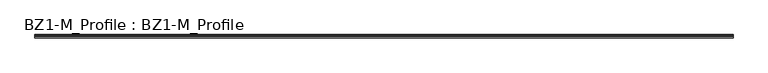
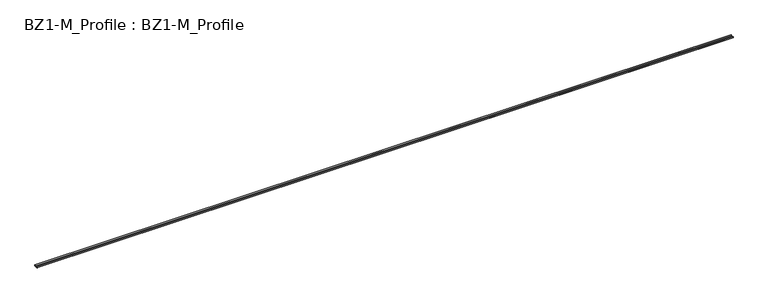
"""IFC4 building model written with IfcOpenShell, lengths in millimetres: beam geometry, BZ1-M_Profile : BZ1-M_Profile."""

from ifc_helpers import new_model, si_unit, frame, origin, place, context, project, spatial, polyline, outline, extrude, source, transform, mapped, element, save


def bz1_m_profile_bz1_m_profile_64fc4bbf(model_context):
    return source(origin(), model_context, "Body", "SweptSolid", [
        extrude(outline(polyline([(45.0, 25.0), (45.0, 0.0), (39.0, 0.0), (39.0, 1.0), (44.0, 1.0), (44.0, 24.0), (18.3051526, 24.0), (8.117757, 0.0), (-8.117757, 0.0), (-18.3051526, 24.0), (-44.0, 24.0), (-44.0, 1.0), (-39.0, 1.0), (-39.0, 0.0), (-45.0, 0.0), (-45.0, 25.0), (-17.643267, 25.0), (-7.4558714, 1.0), (7.4558714, 1.0), (17.643267, 25.0), (45.0, 25.0)])), frame((-8939.171066, 0.0, 0.0), z_axis=(1.0, 0.0, 0.0), x_axis=(0.0, 1.0, 0.0)), (0.0, 0.0, 1.0), 17839.7656882),
    ])


if __name__ == "__main__":
    model = new_model("IFC4")
    model_context = context("Model", 3, world=origin())
    ifc_project = project(units=[si_unit("LENGTHUNIT", "METRE", prefix="MILLI")], contexts=[model_context])
    site = spatial("IfcSite", under=ifc_project)
    building = spatial("IfcBuilding", under=site)
    placement = place(None, origin())
    bz1_m_profile_bz1_m_profile_shape = bz1_m_profile_bz1_m_profile_64fc4bbf(model_context)
    element("IfcBeam", 1, ObjectType="BZ1-M_Profile : BZ1-M_Profile", at=placement, inside=building, context=model_context, shape_type="MappedRepresentation", body=[
        mapped(bz1_m_profile_bz1_m_profile_shape, transform((0.0, 0.0, 0.0), x_axis=(1.0, 0.0, 0.0), y_axis=(0.0, 1.0, 0.0), z_axis=(0.0, 0.0, 1.0))),
    ])
    save(model, "model.ifc")
